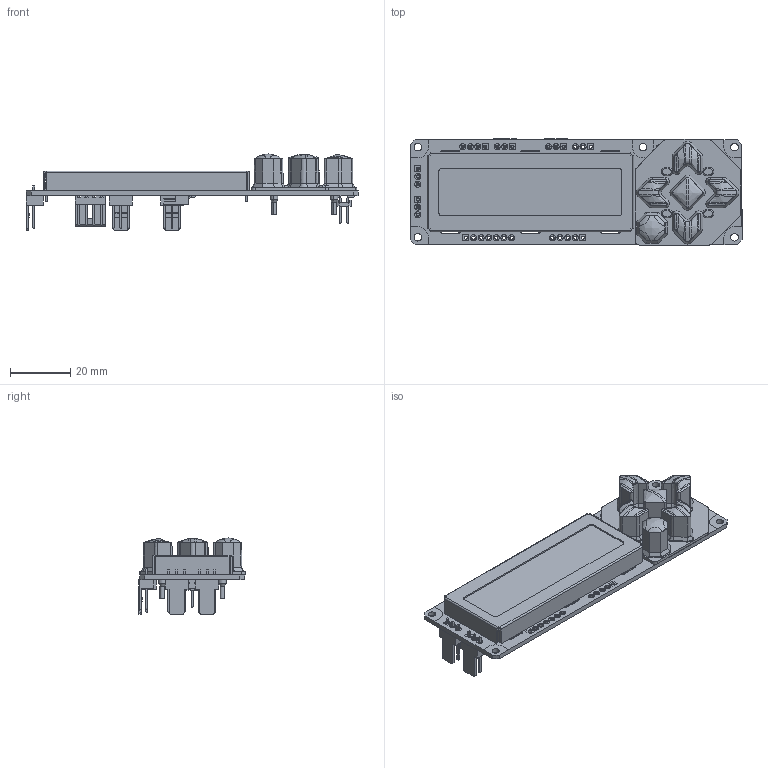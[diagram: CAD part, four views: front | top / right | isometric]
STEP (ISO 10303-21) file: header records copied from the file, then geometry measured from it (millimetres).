
FILE_DESCRIPTION (( 'STEP AP214' ), '1' );
FILE_NAME ('CFA633-KU.STEP', '2024-09-20T17:14:57', ( '' ), ( '' ), 'SwSTEP 2.0', 'SolidWorks 2021', '' );
FILE_SCHEMA (( 'AUTOMOTIVE_DESIGN' ));
Length unit declared in the file: millimetre
Products named in the file (1): CFA633-KU
Bounding box: 110.6 x 35.34 x 25.4 mm (x, y, z)
Volume: 20623.8 mm3; surface area: 32863.7 mm2
Topology: 43 solids, 43 shells, 2426 faces, 6099 edges, 3948 vertices
Faces by surface type: plane 1703, cylinder 393, bspline 312, cone 18
Entity records: 114167 total; most frequent: CARTESIAN_POINT 30444, ORIENTED_EDGE 12198, DIRECTION 10368, EDGE_CURVE 6099, VECTOR 4510, LINE 4510, VERTEX_POINT 3948, AXIS2_PLACEMENT_3D 2929
